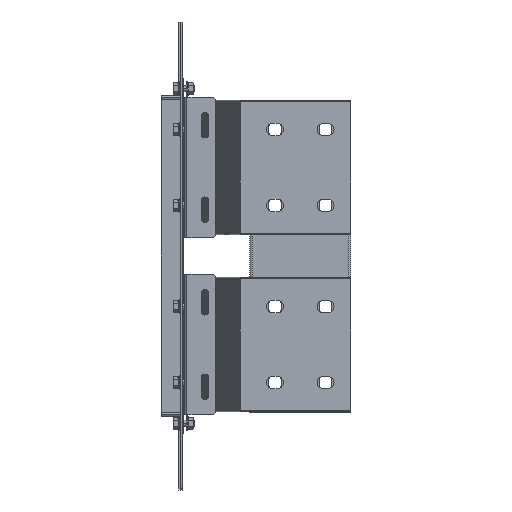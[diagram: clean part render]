
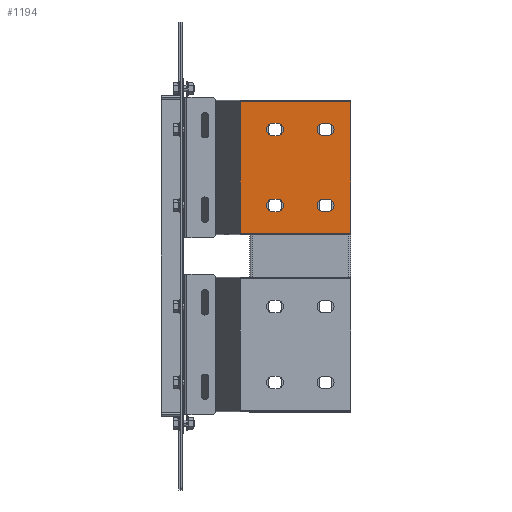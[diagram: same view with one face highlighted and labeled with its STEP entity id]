
A CAD part, front view. The second image highlights one B-rep face of the part: STEP entity #1194.
In plain terms, the highlighted planar face has unit normal (0, -1, 0).
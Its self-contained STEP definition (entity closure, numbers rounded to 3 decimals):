
#1018=AXIS2_PLACEMENT_3D('Circle Axis2P3D',#1016,#1017,$) ;
#1038=AXIS2_PLACEMENT_3D('Plane Axis2P3D',#1035,#1036,#1037) ;
#1076=AXIS2_PLACEMENT_3D('Circle Axis2P3D',#1074,#1075,$) ;
#1094=AXIS2_PLACEMENT_3D('Circle Axis2P3D',#1092,#1093,$) ;
#1110=AXIS2_PLACEMENT_3D('Circle Axis2P3D',#1108,#1109,$) ;
#1128=AXIS2_PLACEMENT_3D('Circle Axis2P3D',#1126,#1127,$) ;
#1144=AXIS2_PLACEMENT_3D('Circle Axis2P3D',#1142,#1143,$) ;
#1171=AXIS2_PLACEMENT_3D('Circle Axis2P3D',#1169,#1170,$) ;
#1185=AXIS2_PLACEMENT_3D('Circle Axis2P3D',#1183,#1184,$) ;
#982=CARTESIAN_POINT('Vertex',(112.5,-152.1,52.5)) ;
#985=CARTESIAN_POINT('Line Origine',(110.,-152.1,52.5)) ;
#989=CARTESIAN_POINT('Vertex',(107.5,-152.1,52.5)) ;
#1016=CARTESIAN_POINT('Axis2P3D Location',(107.5,-152.1,45.)) ;
#1020=CARTESIAN_POINT('Vertex',(107.5,-152.1,37.5)) ;
#1035=CARTESIAN_POINT('Axis2P3D Location',(200.,-152.1,-77.9)) ;
#1040=CARTESIAN_POINT('Line Origine',(134.303,-152.1,-77.9)) ;
#1044=CARTESIAN_POINT('Vertex',(200.,-152.1,-77.9)) ;
#1046=CARTESIAN_POINT('Vertex',(68.605,-152.1,-77.9)) ;
#1049=CARTESIAN_POINT('Line Origine',(200.,-152.1,0.)) ;
#1053=CARTESIAN_POINT('Vertex',(200.,-152.1,77.9)) ;
#1056=CARTESIAN_POINT('Line Origine',(134.303,-152.1,77.9)) ;
#1060=CARTESIAN_POINT('Vertex',(68.605,-152.1,77.9)) ;
#1063=CARTESIAN_POINT('Line Origine',(68.605,-152.1,0.)) ;
#1074=CARTESIAN_POINT('Axis2P3D Location',(112.5,-152.1,45.)) ;
#1078=CARTESIAN_POINT('Vertex',(112.5,-152.1,37.5)) ;
#1081=CARTESIAN_POINT('Line Origine',(110.,-152.1,37.5)) ;
#1092=CARTESIAN_POINT('Axis2P3D Location',(172.5,-152.1,45.)) ;
#1096=CARTESIAN_POINT('Vertex',(172.5,-152.1,37.5)) ;
#1098=CARTESIAN_POINT('Vertex',(172.5,-152.1,52.5)) ;
#1101=CARTESIAN_POINT('Line Origine',(170.,-152.1,37.5)) ;
#1105=CARTESIAN_POINT('Vertex',(167.5,-152.1,37.5)) ;
#1108=CARTESIAN_POINT('Axis2P3D Location',(167.5,-152.1,45.)) ;
#1112=CARTESIAN_POINT('Vertex',(167.5,-152.1,52.5)) ;
#1115=CARTESIAN_POINT('Line Origine',(170.,-152.1,52.5)) ;
#1126=CARTESIAN_POINT('Axis2P3D Location',(107.5,-152.1,-45.)) ;
#1130=CARTESIAN_POINT('Vertex',(107.5,-152.1,-37.5)) ;
#1132=CARTESIAN_POINT('Vertex',(107.5,-152.1,-52.5)) ;
#1135=CARTESIAN_POINT('Line Origine',(110.,-152.1,-37.5)) ;
#1139=CARTESIAN_POINT('Vertex',(112.5,-152.1,-37.5)) ;
#1142=CARTESIAN_POINT('Axis2P3D Location',(112.5,-152.1,-45.)) ;
#1146=CARTESIAN_POINT('Vertex',(112.5,-152.1,-52.5)) ;
#1149=CARTESIAN_POINT('Line Origine',(110.,-152.1,-52.5)) ;
#1160=CARTESIAN_POINT('Line Origine',(170.,-152.1,-37.5)) ;
#1164=CARTESIAN_POINT('Vertex',(172.5,-152.1,-37.5)) ;
#1166=CARTESIAN_POINT('Vertex',(167.5,-152.1,-37.5)) ;
#1169=CARTESIAN_POINT('Axis2P3D Location',(172.5,-152.1,-45.)) ;
#1173=CARTESIAN_POINT('Vertex',(172.5,-152.1,-52.5)) ;
#1176=CARTESIAN_POINT('Line Origine',(170.,-152.1,-52.5)) ;
#1180=CARTESIAN_POINT('Vertex',(167.5,-152.1,-52.5)) ;
#1183=CARTESIAN_POINT('Axis2P3D Location',(167.5,-152.1,-45.)) ;
#986=DIRECTION('Vector Direction',(1.,0.,0.)) ;
#1017=DIRECTION('Axis2P3D Direction',(0.,-1.,0.)) ;
#1036=DIRECTION('Axis2P3D Direction',(0.,-1.,0.)) ;
#1037=DIRECTION('Axis2P3D XDirection',(0.,0.,1.)) ;
#1041=DIRECTION('Vector Direction',(-1.,0.,0.)) ;
#1050=DIRECTION('Vector Direction',(0.,0.,1.)) ;
#1057=DIRECTION('Vector Direction',(-1.,0.,0.)) ;
#1064=DIRECTION('Vector Direction',(0.,0.,1.)) ;
#1075=DIRECTION('Axis2P3D Direction',(0.,-1.,0.)) ;
#1082=DIRECTION('Vector Direction',(-1.,0.,0.)) ;
#1093=DIRECTION('Axis2P3D Direction',(0.,-1.,0.)) ;
#1102=DIRECTION('Vector Direction',(1.,0.,0.)) ;
#1109=DIRECTION('Axis2P3D Direction',(0.,-1.,0.)) ;
#1116=DIRECTION('Vector Direction',(-1.,0.,0.)) ;
#1127=DIRECTION('Axis2P3D Direction',(0.,-1.,0.)) ;
#1136=DIRECTION('Vector Direction',(-1.,0.,0.)) ;
#1143=DIRECTION('Axis2P3D Direction',(0.,-1.,0.)) ;
#1150=DIRECTION('Vector Direction',(1.,0.,0.)) ;
#1161=DIRECTION('Vector Direction',(1.,0.,0.)) ;
#1170=DIRECTION('Axis2P3D Direction',(0.,-1.,0.)) ;
#1177=DIRECTION('Vector Direction',(-1.,0.,0.)) ;
#1184=DIRECTION('Axis2P3D Direction',(0.,-1.,0.)) ;
#987=VECTOR('Line Direction',#986,1.) ;
#1042=VECTOR('Line Direction',#1041,1.) ;
#1051=VECTOR('Line Direction',#1050,1.) ;
#1058=VECTOR('Line Direction',#1057,1.) ;
#1065=VECTOR('Line Direction',#1064,1.) ;
#1083=VECTOR('Line Direction',#1082,1.) ;
#1103=VECTOR('Line Direction',#1102,1.) ;
#1117=VECTOR('Line Direction',#1116,1.) ;
#1137=VECTOR('Line Direction',#1136,1.) ;
#1151=VECTOR('Line Direction',#1150,1.) ;
#1162=VECTOR('Line Direction',#1161,1.) ;
#1178=VECTOR('Line Direction',#1177,1.) ;
#1069=ORIENTED_EDGE('',*,*,#1048,.F.) ;
#1070=ORIENTED_EDGE('',*,*,#1055,.F.) ;
#1071=ORIENTED_EDGE('',*,*,#1062,.T.) ;
#1072=ORIENTED_EDGE('',*,*,#1067,.F.) ;
#1087=ORIENTED_EDGE('',*,*,#1080,.F.) ;
#1088=ORIENTED_EDGE('',*,*,#1085,.F.) ;
#1089=ORIENTED_EDGE('',*,*,#1022,.F.) ;
#1090=ORIENTED_EDGE('',*,*,#991,.F.) ;
#1121=ORIENTED_EDGE('',*,*,#1100,.F.) ;
#1122=ORIENTED_EDGE('',*,*,#1107,.F.) ;
#1123=ORIENTED_EDGE('',*,*,#1114,.F.) ;
#1124=ORIENTED_EDGE('',*,*,#1119,.F.) ;
#1155=ORIENTED_EDGE('',*,*,#1134,.F.) ;
#1156=ORIENTED_EDGE('',*,*,#1141,.F.) ;
#1157=ORIENTED_EDGE('',*,*,#1148,.F.) ;
#1158=ORIENTED_EDGE('',*,*,#1153,.F.) ;
#1189=ORIENTED_EDGE('',*,*,#1168,.F.) ;
#1190=ORIENTED_EDGE('',*,*,#1175,.F.) ;
#1191=ORIENTED_EDGE('',*,*,#1182,.F.) ;
#1192=ORIENTED_EDGE('',*,*,#1187,.F.) ;
#1091=FACE_BOUND('',#1086,.T.) ;
#1125=FACE_BOUND('',#1120,.T.) ;
#1159=FACE_BOUND('',#1154,.T.) ;
#1193=FACE_BOUND('',#1188,.T.) ;
#1194=ADVANCED_FACE('N',(#1073,#1091,#1125,#1159,#1193),#1039,.T.) ;
#1019=CIRCLE('generated circle',#1018,7.5) ;
#1077=CIRCLE('generated circle',#1076,7.5) ;
#1095=CIRCLE('generated circle',#1094,7.5) ;
#1111=CIRCLE('generated circle',#1110,7.5) ;
#1129=CIRCLE('generated circle',#1128,7.5) ;
#1145=CIRCLE('generated circle',#1144,7.5) ;
#1172=CIRCLE('generated circle',#1171,7.5) ;
#1186=CIRCLE('generated circle',#1185,7.5) ;
#991=EDGE_CURVE('',#983,#990,#988,.F.) ;
#1022=EDGE_CURVE('',#990,#1021,#1019,.T.) ;
#1048=EDGE_CURVE('',#1045,#1047,#1043,.T.) ;
#1055=EDGE_CURVE('',#1054,#1045,#1052,.F.) ;
#1062=EDGE_CURVE('',#1054,#1061,#1059,.T.) ;
#1067=EDGE_CURVE('',#1047,#1061,#1066,.T.) ;
#1080=EDGE_CURVE('',#1079,#983,#1077,.T.) ;
#1085=EDGE_CURVE('',#1021,#1079,#1084,.F.) ;
#1100=EDGE_CURVE('',#1097,#1099,#1095,.T.) ;
#1107=EDGE_CURVE('',#1106,#1097,#1104,.T.) ;
#1114=EDGE_CURVE('',#1113,#1106,#1111,.T.) ;
#1119=EDGE_CURVE('',#1099,#1113,#1118,.T.) ;
#1134=EDGE_CURVE('',#1131,#1133,#1129,.T.) ;
#1141=EDGE_CURVE('',#1140,#1131,#1138,.T.) ;
#1148=EDGE_CURVE('',#1147,#1140,#1145,.T.) ;
#1153=EDGE_CURVE('',#1133,#1147,#1152,.T.) ;
#1168=EDGE_CURVE('',#1165,#1167,#1163,.F.) ;
#1175=EDGE_CURVE('',#1174,#1165,#1172,.T.) ;
#1182=EDGE_CURVE('',#1181,#1174,#1179,.F.) ;
#1187=EDGE_CURVE('',#1167,#1181,#1186,.T.) ;
#1068=EDGE_LOOP('',(#1069,#1070,#1071,#1072)) ;
#1086=EDGE_LOOP('',(#1087,#1088,#1089,#1090)) ;
#1120=EDGE_LOOP('',(#1121,#1122,#1123,#1124)) ;
#1154=EDGE_LOOP('',(#1155,#1156,#1157,#1158)) ;
#1188=EDGE_LOOP('',(#1189,#1190,#1191,#1192)) ;
#1073=FACE_OUTER_BOUND('',#1068,.T.) ;
#988=LINE('Line',#985,#987) ;
#1043=LINE('Line',#1040,#1042) ;
#1052=LINE('Line',#1049,#1051) ;
#1059=LINE('Line',#1056,#1058) ;
#1066=LINE('Line',#1063,#1065) ;
#1084=LINE('Line',#1081,#1083) ;
#1104=LINE('Line',#1101,#1103) ;
#1118=LINE('Line',#1115,#1117) ;
#1138=LINE('Line',#1135,#1137) ;
#1152=LINE('Line',#1149,#1151) ;
#1163=LINE('Line',#1160,#1162) ;
#1179=LINE('Line',#1176,#1178) ;
#1039=PLANE('',#1038) ;
#983=VERTEX_POINT('',#982) ;
#990=VERTEX_POINT('',#989) ;
#1021=VERTEX_POINT('',#1020) ;
#1045=VERTEX_POINT('',#1044) ;
#1047=VERTEX_POINT('',#1046) ;
#1054=VERTEX_POINT('',#1053) ;
#1061=VERTEX_POINT('',#1060) ;
#1079=VERTEX_POINT('',#1078) ;
#1097=VERTEX_POINT('',#1096) ;
#1099=VERTEX_POINT('',#1098) ;
#1106=VERTEX_POINT('',#1105) ;
#1113=VERTEX_POINT('',#1112) ;
#1131=VERTEX_POINT('',#1130) ;
#1133=VERTEX_POINT('',#1132) ;
#1140=VERTEX_POINT('',#1139) ;
#1147=VERTEX_POINT('',#1146) ;
#1165=VERTEX_POINT('',#1164) ;
#1167=VERTEX_POINT('',#1166) ;
#1174=VERTEX_POINT('',#1173) ;
#1181=VERTEX_POINT('',#1180) ;
